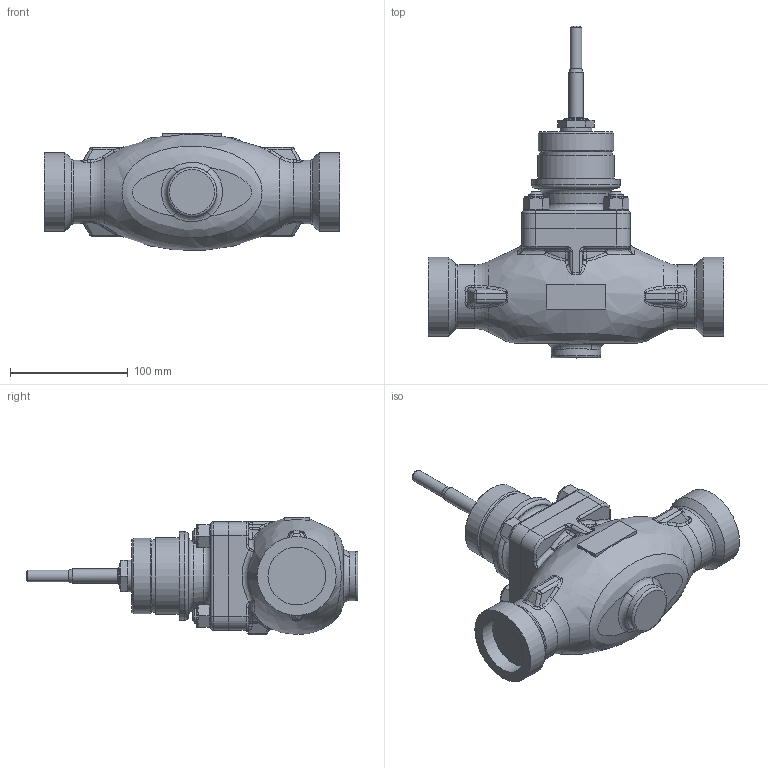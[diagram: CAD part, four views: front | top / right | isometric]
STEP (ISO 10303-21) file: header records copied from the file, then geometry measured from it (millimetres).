
FILE_DESCRIPTION(/* description */ (''),/* implementation_level */ '2;1');
FILE_NAME(/* name */ 'CV3xx_NPS_1a1_2_privarovaci_SW_CL600.stp',/* time_stamp */ '2017-05-05T08:01:01+02:00',/* author */ (''),/* organization */ (''),/* preprocessor_version */ 'ST-DEVELOPER v15',/* originating_system */ 'SIEMENS PLM Software NX 8.5',/* authorisation */ '');
FILE_SCHEMA (('AP203_CONFIGURATION_CONTROLLED_3D_DESIGN_OF_MECHANICAL_PARTS_AND_ASSEMBLIES_MIM_LF { 1 0 10303 403 2 1 2}'));
Length unit declared in the file: millimetre
Products named in the file (1): adam123C24F3gp5u
Bounding box: 251 x 282 x 100 mm (x, y, z)
Volume: 1641080 mm3; surface area: 127054.3 mm2
Topology: 1 solids, 1 shells, 429 faces, 973 edges, 560 vertices
Faces by surface type: cylinder 109, plane 107, bspline 92, cone 76, torus 29, sphere 16
Full cylindrical faces by diameter (mm): 10 x1, 12 x9, 14 x5, 18 x1, 19 x8, 21 x1, 27 x1, 42 x1, 49 x2, 54 x2, 61.6 x1, 64 x1, 65 x1, 67 x2, 75 x1, 76 x1
Entity records: 13151 total; most frequent: CARTESIAN_POINT 4684, ORIENTED_EDGE 1698, DIRECTION 1684, EDGE_CURVE 849, AXIS2_PLACEMENT_3D 746, EDGE_LOOP 534, VERTEX_POINT 519, ADVANCED_FACE 429
